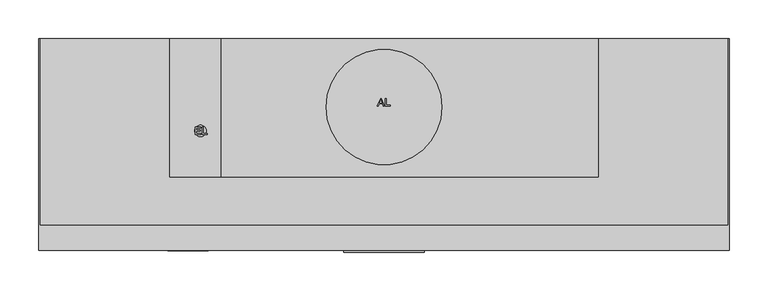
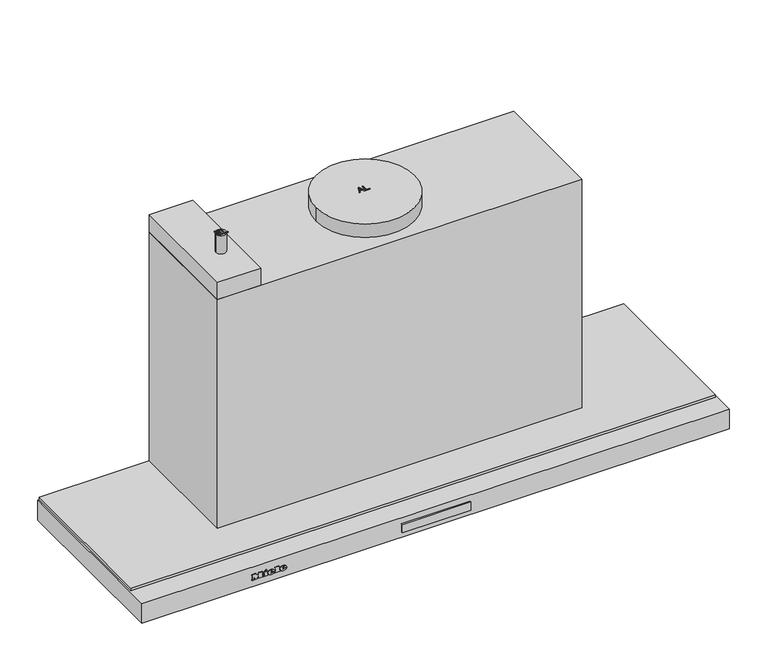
"""IFC4 building model written with IfcOpenShell, lengths in millimetres: proxy geometry, 12030640_UA_DAS2920_EDST : 28S2920S_UA_12030640_DAS2920_EDST."""

from ifc_helpers import new_model, si_unit, point, frame, frame_2d, origin, origin_with_axes, place, context, project, spatial, polyline, circle_curve, ellipse_curve, trimmed, segment, composite_curve, outline, extrude, faceted_brep, source, transform, mapped, element, save
from ifc_brep_helpers import plane_surface, cylinder_surface, revolved_surface, extruded_surface, advanced_brep


def specialty_equipment_f2d649a9(model_context):
    return source(origin(), model_context, "Body", "SolidModel", [
        extrude(outline(polyline([(52.0, -275.0), (52.0, -277.3978707), (-52.0, -277.3978707), (-52.0, -275.0), (52.0, -275.0)])), frame((0.0, 0.0, -23.0389651), z_axis=(0.0, 0.0, 1.0), x_axis=(1.0, 0.0, 0.0)), (0.0, 0.0, 1.0), 13.3389155),
        advanced_brep(
        [(-233.4590019, -276.0, -18.7681017), (-233.4590019, -276.0, -17.8894017), (-227.6387019, -276.0, -17.8894017), (-237.7655019, -276.0, -17.8894017), (-235.3730019, -276.0, -20.8300017), (-227.7866019, -276.0, -18.7681017), (-230.4140019, -276.0, -18.7681017), (-232.4846019, -276.0, -19.7425017), (-233.4590019, -276.0, -16.7758017), (-233.4590019, -276.0, -15.8275017), (-231.9713019, -276.0, -15.8275017), (-231.9713019, -276.0, -16.7758017), (-233.4590019, -275.0, -18.7681017), (-232.4846019, -275.0, -19.7425017), (-230.4140019, -275.0, -18.7681017), (-227.7866019, -275.0, -18.7681017), (-235.3730019, -275.0, -20.8300017), (-237.7655019, -275.0, -17.8894017), (-227.6387019, -275.0, -17.8894017), (-233.4590019, -275.0, -17.8894017), (-233.4590019, -275.0, -16.7758017), (-231.9713019, -275.0, -16.7758017), (-231.9713019, -275.0, -15.8275017), (-233.4590019, -275.0, -15.8275017)],
        [
            (0, 1),
            (1, 2),
            (2, 3, ellipse_curve(frame((-232.7021019, -276.0, -17.8894017), z_axis=(0.0, -1.0, 0.0), x_axis=(-1.0, 0.0, 0.0)), 5.0634, 4.1847)),
            (3, 4, circle_curve(frame((-234.3985544, -276.0, -17.5936017), z_axis=(0.0, -1.0, 0.0), x_axis=(0.0, 0.0, -1.0)), 3.3799161)),
            (4, 5, circle_curve(frame((-232.8034638, -276.0, -15.2968017), z_axis=(0.0, -1.0, 0.0), x_axis=(0.0, 0.0, -1.0)), 6.1007236)),
            (5, 6),
            (6, 7, circle_curve(frame((-232.0593254, -276.0, -17.9590017), z_axis=(0.0, 1.0, 0.0), x_axis=(0.0, 0.0, -1.0)), 1.8335027)),
            (7, 0, circle_curve(frame((-232.4846019, -276.0, -18.7681017), z_axis=(0.0, 1.0, 0.0), x_axis=(0.0, 0.0, -1.0)), 0.9744)),
            (8, 9),
            (9, 10, circle_curve(frame((-232.7151519, -276.0, -15.8275017), z_axis=(0.0, 1.0, 0.0), x_axis=(0.0, 0.0, -1.0)), 0.74385)),
            (10, 11),
            (11, 8),
            (12, 13, circle_curve(frame((-232.4846019, -275.0, -18.7681017), z_axis=(0.0, -1.0, 0.0), x_axis=(0.0, 0.0, -1.0)), 0.9744)),
            (13, 14, circle_curve(frame((-232.0593254, -275.0, -17.9590017), z_axis=(0.0, -1.0, 0.0), x_axis=(0.0, 0.0, -1.0)), 1.8335027)),
            (14, 15),
            (15, 16, circle_curve(frame((-232.8034638, -275.0, -15.2968017), z_axis=(0.0, 1.0, 0.0), x_axis=(0.0, 0.0, -1.0)), 6.1007236)),
            (16, 17, circle_curve(frame((-234.3985544, -275.0, -17.5936017), z_axis=(0.0, 1.0, 0.0), x_axis=(0.0, 0.0, -1.0)), 3.3799161)),
            (17, 18, ellipse_curve(frame((-232.7021019, -275.0, -17.8894017), z_axis=(0.0, 1.0, 0.0), x_axis=(-1.0, 0.0, 0.0)), 5.0634, 4.1847)),
            (18, 19),
            (19, 12),
            (20, 21),
            (21, 22),
            (22, 23, circle_curve(frame((-232.7151519, -275.0, -15.8275017), z_axis=(0.0, -1.0, 0.0), x_axis=(0.0, 0.0, -1.0)), 0.74385)),
            (23, 20),
            (0, 12),
            (19, 1),
            (18, 2),
            (5, 15),
            (14, 6),
            (17, 3),
            (13, 7),
            (16, 4),
            (8, 20),
            (23, 9),
            (22, 10),
            (21, 11),
        ],
        [
            plane_surface(frame((-233.4590019, -276.0, -17.8894017), z_axis=(0.0, -1.0, 0.0), x_axis=(0.0, 0.0, 1.0))),
            plane_surface(frame((-233.4590019, -275.0, -17.8894017), z_axis=(0.0, 1.0, 0.0), x_axis=(0.0, 0.0, -1.0))),
            plane_surface(frame((-233.4590019, -276.0, -18.7681017), z_axis=(1.0, 0.0, 0.0), x_axis=(0.0, 1.0, 0.0))),
            plane_surface(frame((-233.4590019, -276.0, -17.8894017), z_axis=(0.0, 0.0, -1.0), x_axis=(0.0, 1.0, 0.0))),
            plane_surface(frame((-227.7866019, -276.0, -18.7681017), z_axis=(0.0, 0.0, 1.0), x_axis=(0.0, 1.0, 0.0))),
            extruded_surface(trimmed(ellipse_curve(frame((-232.7021019, -274.0, -17.8894017), z_axis=(0.0, -1.0, 0.0), x_axis=(-1.0, 0.0, 0.0)), 5.0634, 4.1847), [point((-227.6387019, -274.0, -17.8894017))], [point((-237.7655019, -274.0, -17.8894017))], True, "CARTESIAN"), (0.0, -1.0, 0.0), 1.0),
            revolved_surface(polyline([(-232.0593254, -275.0, -19.792504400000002), (-232.0593254, -276.0, -19.792504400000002)]), (-232.0593254, -275.0, -17.9590017), (0.0, 1.0, 0.0)),
            revolved_surface(polyline([(-232.4846019, -275.0, -19.7425017), (-232.4846019, -276.0, -19.7425017)]), (-232.4846019, -275.0, -18.7681017), (0.0, 1.0, 0.0)),
            cylinder_surface(frame((-234.3985544, -275.0, -17.5936017), z_axis=(0.0, -1.0, 0.0), x_axis=(0.0, 0.0, -1.0)), 3.3799161),
            cylinder_surface(frame((-232.8034638, -275.0, -15.2968017), z_axis=(0.0, -1.0, 0.0), x_axis=(0.0, 0.0, -1.0)), 6.1007236),
            plane_surface(frame((-233.4590019, -276.0, -16.7758017), z_axis=(1.0, 0.0, 0.0), x_axis=(0.0, 1.0, 0.0))),
            revolved_surface(polyline([(-232.7151519, -275.0, -16.571351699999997), (-232.7151519, -276.0, -16.571351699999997)]), (-232.7151519, -275.0, -15.8275017), (0.0, 1.0, 0.0)),
            plane_surface(frame((-231.9713019, -276.0, -15.8275017), z_axis=(-1.0, 0.0, 0.0), x_axis=(0.0, 1.0, 0.0))),
            plane_surface(frame((-231.9713019, -276.0, -16.7758017), z_axis=(0.0, 0.0, 1.0), x_axis=(0.0, 1.0, 0.0))),
        ],
        [
            (0, [[1, 2, 3, 4, 5, 6, 7, 8], [9, 10, 11, 12]]),
            (1, [[13, 14, 15, 16, 17, 18, 19, 20], [21, 22, 23, 24]]),
            (2, [[-1, 25, -20, 26]]),
            (3, [[-2, -26, -19, 27]]),
            (4, [[-6, 28, -15, 29]]),
            (5, [[-3, -27, -18, 30]]),
            (6, [[-7, -29, -14, 31]]),
            (7, [[-8, -31, -13, -25]]),
            (8, [[-4, -30, -17, 32]]),
            (9, [[-5, -32, -16, -28]]),
            (10, [[-9, 33, -24, 34]]),
            (11, [[-10, -34, -23, 35]]),
            (12, [[-11, -35, -22, 36]]),
            (13, [[-12, -36, -21, -33]]),
        ],
    ),
        advanced_brep(
        [(-251.6159019, -276.0, -18.7681017), (-251.6159019, -276.0, -17.8894017), (-245.7956019, -276.0, -17.8894017), (-255.9224019, -276.0, -17.8894017), (-253.5299019, -276.0, -20.8300017), (-245.9435019, -276.0, -18.7681017), (-248.5709019, -276.0, -18.7681017), (-250.6415019, -276.0, -19.7425017), (-251.6159019, -276.0, -16.7758017), (-251.6159019, -276.0, -15.8275017), (-250.1282019, -276.0, -15.8275017), (-250.1282019, -276.0, -16.7758017), (-251.6159019, -275.0, -18.7681017), (-250.6415019, -275.0, -19.7425017), (-248.5709019, -275.0, -18.7681017), (-245.9435019, -275.0, -18.7681017), (-253.5299019, -275.0, -20.8300017), (-255.9224019, -275.0, -17.8894017), (-245.7956019, -275.0, -17.8894017), (-251.6159019, -275.0, -17.8894017), (-251.6159019, -275.0, -16.7758017), (-250.1282019, -275.0, -16.7758017), (-250.1282019, -275.0, -15.8275017), (-251.6159019, -275.0, -15.8275017)],
        [
            (0, 1),
            (1, 2),
            (2, 3, ellipse_curve(frame((-250.8590019, -276.0, -17.8894017), z_axis=(0.0, -1.0, 0.0), x_axis=(-1.0, 0.0, 0.0)), 5.0634, 4.1847)),
            (3, 4, circle_curve(frame((-252.5554544, -276.0, -17.5936017), z_axis=(0.0, -1.0, 0.0), x_axis=(0.0, 0.0, -1.0)), 3.3799161)),
            (4, 5, circle_curve(frame((-250.9603638, -276.0, -15.2968017), z_axis=(0.0, -1.0, 0.0), x_axis=(0.0, 0.0, -1.0)), 6.1007236)),
            (5, 6),
            (6, 7, circle_curve(frame((-250.2162254, -276.0, -17.9590017), z_axis=(0.0, 1.0, 0.0), x_axis=(0.0, 0.0, -1.0)), 1.8335027)),
            (7, 0, circle_curve(frame((-250.6415019, -276.0, -18.7681017), z_axis=(0.0, 1.0, 0.0), x_axis=(0.0, 0.0, -1.0)), 0.9744)),
            (8, 9),
            (9, 10, circle_curve(frame((-250.8720519, -276.0, -15.8275017), z_axis=(0.0, 1.0, 0.0), x_axis=(0.0, 0.0, -1.0)), 0.74385)),
            (10, 11),
            (11, 8),
            (12, 13, circle_curve(frame((-250.6415019, -275.0, -18.7681017), z_axis=(0.0, -1.0, 0.0), x_axis=(0.0, 0.0, -1.0)), 0.9744)),
            (13, 14, circle_curve(frame((-250.2162254, -275.0, -17.9590017), z_axis=(0.0, -1.0, 0.0), x_axis=(0.0, 0.0, -1.0)), 1.8335027)),
            (14, 15),
            (15, 16, circle_curve(frame((-250.9603638, -275.0, -15.2968017), z_axis=(0.0, 1.0, 0.0), x_axis=(0.0, 0.0, -1.0)), 6.1007236)),
            (16, 17, circle_curve(frame((-252.5554544, -275.0, -17.5936017), z_axis=(0.0, 1.0, 0.0), x_axis=(0.0, 0.0, -1.0)), 3.3799161)),
            (17, 18, ellipse_curve(frame((-250.8590019, -275.0, -17.8894017), z_axis=(0.0, 1.0, 0.0), x_axis=(-1.0, 0.0, 0.0)), 5.0634, 4.1847)),
            (18, 19),
            (19, 12),
            (20, 21),
            (21, 22),
            (22, 23, circle_curve(frame((-250.8720519, -275.0, -15.8275017), z_axis=(0.0, -1.0, 0.0), x_axis=(0.0, 0.0, -1.0)), 0.74385)),
            (23, 20),
            (0, 12),
            (19, 1),
            (18, 2),
            (5, 15),
            (14, 6),
            (17, 3),
            (13, 7),
            (16, 4),
            (8, 20),
            (23, 9),
            (22, 10),
            (21, 11),
        ],
        [
            plane_surface(frame((-251.6159019, -276.0, -17.8894017), z_axis=(0.0, -1.0, 0.0), x_axis=(0.0, 0.0, 1.0))),
            plane_surface(frame((-251.6159019, -275.0, -17.8894017), z_axis=(0.0, 1.0, 0.0), x_axis=(0.0, 0.0, -1.0))),
            plane_surface(frame((-251.6159019, -276.0, -18.7681017), z_axis=(1.0, 0.0, 0.0), x_axis=(0.0, 1.0, 0.0))),
            plane_surface(frame((-251.6159019, -276.0, -17.8894017), z_axis=(0.0, 0.0, -1.0), x_axis=(0.0, 1.0, 0.0))),
            plane_surface(frame((-245.9435019, -276.0, -18.7681017), z_axis=(0.0, 0.0, 1.0), x_axis=(0.0, 1.0, 0.0))),
            extruded_surface(trimmed(ellipse_curve(frame((-250.8590019, -274.0, -17.8894017), z_axis=(0.0, -1.0, 0.0), x_axis=(-1.0, 0.0, 0.0)), 5.0634, 4.1847), [point((-245.7956019, -274.0, -17.8894017))], [point((-255.9224019, -274.0, -17.8894017))], True, "CARTESIAN"), (0.0, -1.0, 0.0), 1.0),
            revolved_surface(polyline([(-250.2162254, -275.0, -19.792504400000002), (-250.2162254, -276.0, -19.792504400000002)]), (-250.2162254, -275.0, -17.9590017), (0.0, 1.0, 0.0)),
            revolved_surface(polyline([(-250.6415019, -275.0, -19.7425017), (-250.6415019, -276.0, -19.7425017)]), (-250.6415019, -275.0, -18.7681017), (0.0, 1.0, 0.0)),
            cylinder_surface(frame((-252.5554544, -275.0, -17.5936017), z_axis=(0.0, -1.0, 0.0), x_axis=(0.0, 0.0, -1.0)), 3.3799161),
            cylinder_surface(frame((-250.9603638, -275.0, -15.2968017), z_axis=(0.0, -1.0, 0.0), x_axis=(0.0, 0.0, -1.0)), 6.1007236),
            plane_surface(frame((-251.6159019, -276.0, -16.7758017), z_axis=(1.0, 0.0, 0.0), x_axis=(0.0, 1.0, 0.0))),
            revolved_surface(polyline([(-250.8720519, -275.0, -16.571351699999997), (-250.8720519, -276.0, -16.571351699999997)]), (-250.8720519, -275.0, -15.8275017), (0.0, 1.0, 0.0)),
            plane_surface(frame((-250.1282019, -276.0, -15.8275017), z_axis=(-1.0, 0.0, 0.0), x_axis=(0.0, 1.0, 0.0))),
            plane_surface(frame((-250.1282019, -276.0, -16.7758017), z_axis=(0.0, 0.0, 1.0), x_axis=(0.0, 1.0, 0.0))),
        ],
        [
            (0, [[1, 2, 3, 4, 5, 6, 7, 8], [9, 10, 11, 12]]),
            (1, [[13, 14, 15, 16, 17, 18, 19, 20], [21, 22, 23, 24]]),
            (2, [[-1, 25, -20, 26]]),
            (3, [[-2, -26, -19, 27]]),
            (4, [[-6, 28, -15, 29]]),
            (5, [[-3, -27, -18, 30]]),
            (6, [[-7, -29, -14, 31]]),
            (7, [[-8, -31, -13, -25]]),
            (8, [[-4, -30, -17, 32]]),
            (9, [[-5, -32, -16, -28]]),
            (10, [[-9, 33, -24, 34]]),
            (11, [[-10, -34, -23, 35]]),
            (12, [[-11, -35, -22, 36]]),
            (13, [[-12, -36, -21, -33]]),
        ],
    ),
        extrude(outline(polyline([(-12.6433017, -261.1250019), (-14.0527017, -260.4638019), (-12.6781017, -257.5145019), (-11.2687017, -258.1670019), (-12.6433017, -261.1250019)])), frame((0.0, -276.0, 0.0), z_axis=(0.0, 1.0, 0.0), x_axis=(0.0, 0.0, 1.0)), (0.0, 0.0, 1.0), 1.0),
        extrude(outline(polyline([(-14.2441017, -263.2739019), (-15.8014017, -263.2739019), (-15.8014017, -262.2386019), (-19.3684017, -262.2386019), (-19.3684017, -263.2739019), (-20.8300017, -263.2739019), (-20.8300017, -256.4096019), (-19.3684017, -256.4096019), (-19.3684017, -257.4188019), (-14.2441017, -257.4188019), (-14.2441017, -263.2739019)])), frame((0.0, -276.0, 0.0), z_axis=(0.0, 1.0, 0.0), x_axis=(0.0, 0.0, 1.0)), (0.0, 0.0, 1.0), 1.0),
        extrude(outline(polyline([(-13.5481017, -245.3084019), (-13.5481017, -244.2644019), (-19.3684017, -244.2644019), (-19.3684017, -245.3084019), (-20.8300017, -245.3084019), (-20.8300017, -238.2527019), (-19.3684017, -238.2527019), (-19.3684017, -239.3228019), (-12.1300017, -239.3228019), (-12.1300017, -245.3084019), (-13.5481017, -245.3084019)])), frame((0.0, -276.0, 0.0), z_axis=(0.0, 1.0, 0.0), x_axis=(0.0, 0.0, 1.0)), (0.0, 0.0, 1.0), 1.0),
        extrude(outline(polyline([(-13.5481017, -280.6130019), (-13.5481017, -279.5603019), (-19.3684017, -279.5603019), (-19.3684017, -280.6130019), (-20.8300017, -280.6130019), (-20.8300017, -276.7850019), (-19.3684017, -276.7850019), (-19.3684017, -277.8290019), (-15.6719769, -277.8290019), (-20.8300017, -273.9401019), (-15.5772794, -270.0338019), (-19.3684017, -270.0338019), (-19.3684017, -271.1039019), (-20.8300017, -271.1039019), (-20.8300017, -264.1613019), (-19.3684017, -264.1613019), (-19.3684017, -265.2662019), (-13.5481017, -265.2662019), (-13.5481017, -264.1613019), (-12.1300017, -264.1613019), (-12.1300017, -269.4596019), (-15.3925017, -272.0000019), (-12.1300017, -274.5491019), (-12.1300017, -280.6130019), (-13.5481017, -280.6130019)])), frame((0.0, -276.0, 0.0), z_axis=(0.0, 1.0, 0.0), x_axis=(0.0, 0.0, 1.0)), (0.0, 0.0, 1.0), 1.0),
        extrude(outline(polyline([(278.0, -180.0), (-278.0, -180.0), (-278.0, 0.0), (278.0, 0.0), (278.0, -180.0)])), frame((0.0, 0.0, 4.0), z_axis=(0.0, 0.0, 1.0), x_axis=(1.0, 0.0, 0.0)), (0.0, 0.0, 1.0), 369.0),
        extrude(outline(composite_curve([segment(trimmed(circle_curve(frame_2d((0.0, -89.0)), 75.0), [point((-75.0, -89.0))], [point((75.0, -89.0))], False, "CARTESIAN"), True, "CONTINUOUS"), segment(trimmed(circle_curve(frame_2d((0.0, -89.0)), 75.0), [point((75.0, -89.0))], [point((-75.0, -89.0))], False, "CARTESIAN"), True, "CONTINUOUS")], self_intersect=False)), frame((0.0, 0.0, 373.0), z_axis=(0.0, 0.0, 1.0), x_axis=(1.0, 0.0, 0.0)), (0.0, 0.0, 1.0), 22.0),
        extrude(outline(polyline([(-278.0, -180.0), (-278.0, 0.0), (-212.0, 0.0), (-212.0, -180.0), (-278.0, -180.0)])), frame((0.0, 0.0, 373.0), z_axis=(0.0, 0.0, 1.0), x_axis=(1.0, 0.0, 0.0)), (0.0, 0.0, 1.0), 28.0),
        extrude(outline(polyline([(-8.547125, -87.975609), (-4.5372113, -77.929978), (-3.4679009, -77.929978), (0.5420128, -87.975609), (-0.7848149, -87.975609), (-1.9350593, -84.8363493), (-6.0725055, -84.8363493), (-7.2202973, -87.975609), (-8.547125, -87.975609)]), holes=[polyline([(-5.6114267, -83.5806455), (-2.3936855, -83.5806455), (-3.2986752, -81.110931), (-4.0025561, -79.1856819), (-4.6279555, -80.8951069), (-5.6114267, -83.5806455)])]), frame((0.0, 0.0, 395.0), z_axis=(0.0, 0.0, 1.0), x_axis=(1.0, 0.0, 0.0)), (0.0, 0.0, 1.0), 1.0),
        extrude(outline(polyline([(1.8835558, -87.975609), (1.8835558, -77.929978), (3.1392597, -77.929978), (3.1392597, -86.7199052), (8.1620752, -86.7199052), (8.1620752, -87.975609), (1.8835558, -87.975609)])), frame((0.0, 0.0, 395.0), z_axis=(0.0, 0.0, 1.0), x_axis=(1.0, 0.0, 0.0)), (0.0, 0.0, 1.0), 1.0),
        extrude(outline(polyline([(446.0, 0.0), (446.0, -242.0), (-446.0, -242.0), (-446.0, 0.0), (446.0, 0.0)])), origin_with_axes(), (0.0, 0.0, 1.0), 4.0),
        extrude(outline(polyline([(120.0, -19.25), (120.0, -31.75), (-120.0, -31.75), (-120.0, -19.25), (120.0, -19.25)])), frame((0.0, 0.0, -23.0), z_axis=(0.0, 0.0, 1.0), x_axis=(1.0, 0.0, 0.0)), (0.0, 0.0, 1.0), 1.785426),
        extrude(outline(polyline([(331.0813184, -268.0), (331.0813184, -246.0), (399.0, -246.0), (399.0, -268.0), (331.0813184, -268.0)])), frame((0.0, 0.0, -33.3019181), z_axis=(0.0, 0.0, 1.0), x_axis=(1.0, 0.0, 0.0)), (0.0, 0.0, 1.0), 1.3019181),
        extrude(outline(polyline([(-399.0, -268.0), (-399.0, -246.0), (-331.0, -246.0), (-331.0, -268.0), (-399.0, -268.0)])), frame((0.0, 0.0, -33.3019181), z_axis=(0.0, 0.0, 1.0), x_axis=(1.0, 0.0, 0.0)), (0.0, 0.0, 1.0), 1.3019181),
        extrude(outline(composite_curve([segment(trimmed(circle_curve(frame_2d((-238.0, -120.0)), 7.5), [point((-230.5, -120.0))], [point((-245.5, -120.0))], False, "CARTESIAN"), True, "CONTINUOUS"), segment(trimmed(circle_curve(frame_2d((-238.0, -120.0)), 7.5), [point((-245.5, -120.0))], [point((-230.5, -120.0))], False, "CARTESIAN"), True, "CONTINUOUS")], self_intersect=False)), frame((0.0, 0.0, 401.0), z_axis=(0.0, 0.0, 1.0), x_axis=(1.0, 0.0, 0.0)), (0.0, 0.0, 1.0), 30.0),
        extrude(outline(polyline([(-235.640443, -124.9184735), (-235.640443, -114.8728425), (-234.3847391, -114.8728425), (-234.3847391, -123.6627696), (-229.3619236, -123.6627696), (-229.3619236, -124.9184735), (-235.640443, -124.9184735)])), frame((0.0, 0.0, 431.0), z_axis=(0.0, 0.0, 1.0), x_axis=(1.0, 0.0, 0.0)), (0.0, 0.0, 1.0), 1.0),
        extrude(outline(polyline([(-244.9012591, -124.9184735), (-244.9012591, -114.8728425), (-237.6809618, -114.8728425), (-237.6809618, -116.1285464), (-243.6455552, -116.1285464), (-243.6455552, -119.1108431), (-237.9948878, -119.1108431), (-237.9948878, -120.366547), (-243.6455552, -120.366547), (-243.6455552, -123.6627696), (-237.5239988, -123.6627696), (-237.5239988, -124.9184735), (-244.9012591, -124.9184735)])), frame((0.0, 0.0, 431.0), z_axis=(0.0, 0.0, 1.0), x_axis=(1.0, 0.0, 0.0)), (0.0, 0.0, 1.0), 1.0),
        extrude(outline(polyline([(-448.0, 0.0), (-413.0, 0.0), (-413.0, -242.0), (413.0, -242.0), (413.0, 0.0), (448.0, 0.0), (448.0, -275.0), (-448.0, -275.0), (-448.0, 0.0)])), frame((0.0, 0.0, -32.0), z_axis=(0.0, 0.0, 1.0), x_axis=(1.0, 0.0, 0.0)), (0.0, 0.0, 1.0), 32.0),
        faceted_brep([(-126.0, -39.0, -24.0), (-126.0, -39.0, 0.0), (126.0, -39.0, 0.0), (126.0, -39.0, -24.0), (-126.0, -12.0, -24.0), (-126.0, -12.0, 0.0), (126.0, -12.0, -24.0), (126.0, -12.0, 0.0), (-413.0, -242.0, 0.0), (-413.0, 0.0, 0.0), (-413.0, 0.0, -24.0), (-413.0, -52.0, -24.0), (-413.0, -52.0, -25.0), (-413.0, -242.0, -25.0), (413.0, -52.0, -25.0), (413.0, -242.0, -25.0), (413.0, -52.0, -24.0), (413.0, 0.0, -24.0), (413.0, 0.0, 0.0), (413.0, -242.0, 0.0)], [[[0, 1, 2, 3]], [[4, 5, 1, 0]], [[6, 7, 5, 4]], [[8, 9, 10, 11, 12, 13]], [[13, 12, 14, 15]], [[16, 11, 10, 17], [6, 4, 0, 3]], [[11, 16, 14, 12]], [[18, 9, 8, 19], [5, 7, 2, 1]], [[9, 18, 17, 10]], [[19, 8, 13, 15]], [[18, 19, 15, 14, 16, 17]], [[7, 6, 3, 2]]]),
        extrude(outline(polyline([(126.0, -12.0), (126.0, -39.0), (-126.0, -39.0), (-126.0, -12.0), (126.0, -12.0)]), holes=[polyline([(120.0, -19.25), (-120.0, -19.25), (-120.0, -31.75), (120.0, -31.75), (120.0, -19.25)])]), frame((0.0, 0.0, -21.214574), z_axis=(0.0, 0.0, 1.0), x_axis=(1.0, 0.0, 0.0)), (0.0, 0.0, 1.0), 21.214574),
    ])


if __name__ == "__main__":
    model = new_model("IFC4")
    model_context = context("Model", 3, world=origin())
    ifc_project = project(units=[si_unit("LENGTHUNIT", "METRE", prefix="MILLI")], contexts=[model_context])
    site = spatial("IfcSite", under=ifc_project)
    building = spatial("IfcBuilding", under=site)
    placement = place(None, origin())
    specialty_equipment_shape = specialty_equipment_f2d649a9(model_context)
    element("IfcBuildingElementProxy", 1, Name="12030640_UA_DAS2920_EDST : 28S2920S_UA_12030640_DAS2920_EDST", ObjectType="12030640_UA_DAS2920_EDST : 28S2920S_UA_12030640_DAS2920_EDST", at=placement, inside=building, context=model_context, shape_type="MappedRepresentation", body=[
        mapped(specialty_equipment_shape, transform((0.0, 0.0, 0.0), x_axis=(1.0, 0.0, 0.0), y_axis=(0.0, 1.0, 0.0), z_axis=(0.0, 0.0, 1.0))),
    ])
    save(model, "model.ifc")
